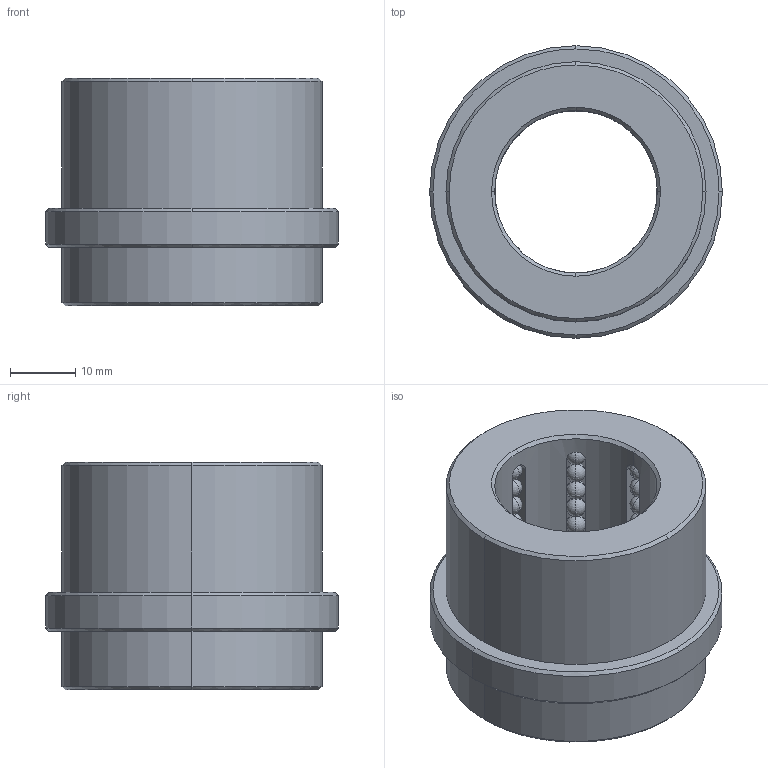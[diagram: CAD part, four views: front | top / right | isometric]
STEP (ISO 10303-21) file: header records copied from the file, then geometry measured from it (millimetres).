
FILE_DESCRIPTION(('CATIA V5 STEP Exchange'),'2;1');
FILE_NAME('C:\Users\Raffaele\Desktop\3D BOLEX\3D FILES CF BOLEX\2-BUSH REF 802\B8022526.stp','2019-06-19T13:56:43+00:00',('none'),('none'),'CATIA Version 5 Release 20 GA (IN-10)','CATIA V5 STEP AP203','none');
FILE_SCHEMA(('CONFIG_CONTROL_DESIGN'));
Length unit declared in the file: millimetre
Products named in the file (1): B8022526
Bounding box: 45 x 45 x 35 mm (x, y, z)
Volume: 27776.6 mm3; surface area: 12713 mm2
Topology: 73 solids, 73 shells, 364 faces, 1050 edges, 264 vertices
Faces by surface type: sphere 288, plane 28, cylinder 24, cone 24
Entity records: 7401 total; most frequent: CARTESIAN_POINT 1612, DIRECTION 1162, ORIENTED_EDGE 948, AXIS2_PLACEMENT_3D 701, EDGE_CURVE 474, EDGE_LOOP 374, ADVANCED_FACE 364, FACE_OUTER_BOUND 364
